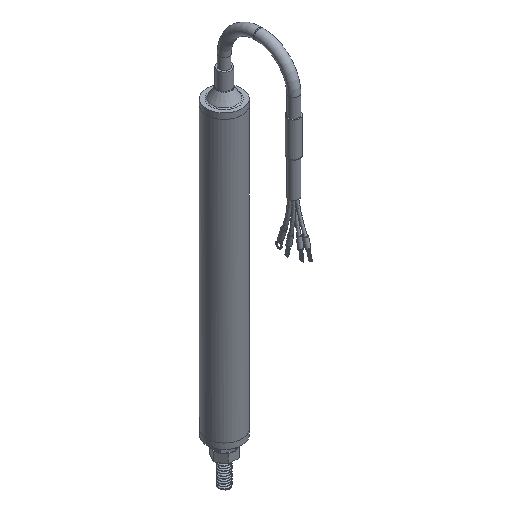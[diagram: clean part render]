
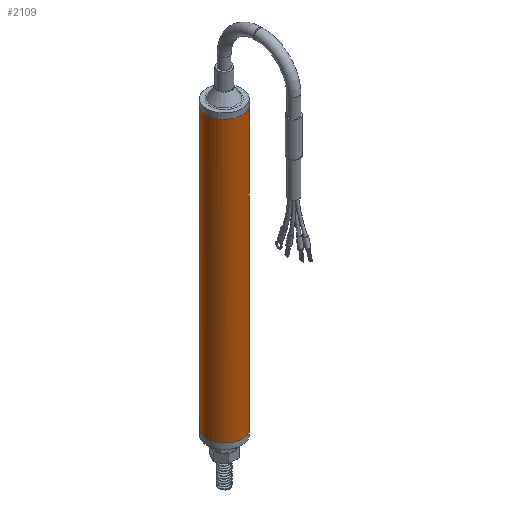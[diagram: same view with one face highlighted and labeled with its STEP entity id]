
A CAD part, isometric view. The second image highlights one B-rep face of the part: STEP entity #2109.
In plain terms, the highlighted cylindrical face has radius 6.35 mm (diameter 12.7 mm), a full revolution.
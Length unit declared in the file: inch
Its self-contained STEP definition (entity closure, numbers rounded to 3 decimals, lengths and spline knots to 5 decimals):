
#98=LINE('',#3315,#245);
#245=VECTOR('',#2715,0.25);
#391=CYLINDRICAL_SURFACE('',#2428,0.25);
#462=FACE_OUTER_BOUND('',#600,.T.);
#600=EDGE_LOOP('',(#1368,#1369,#1370,#1371,#1372,#1373));
#744=CIRCLE('',#2415,0.25);
#745=CIRCLE('',#2416,0.25);
#750=CIRCLE('',#2425,0.25);
#751=CIRCLE('',#2426,0.25);
#847=VERTEX_POINT('',#3290);
#848=VERTEX_POINT('',#3292);
#853=VERTEX_POINT('',#3308);
#854=VERTEX_POINT('',#3310);
#1045=EDGE_CURVE('',#848,#847,#744,.T.);
#1046=EDGE_CURVE('',#847,#848,#745,.T.);
#1053=EDGE_CURVE('',#853,#854,#750,.T.);
#1054=EDGE_CURVE('',#854,#853,#751,.T.);
#1055=EDGE_CURVE('',#854,#848,#98,.T.);
#1368=ORIENTED_EDGE('',*,*,#1054,.F.);
#1369=ORIENTED_EDGE('',*,*,#1055,.T.);
#1370=ORIENTED_EDGE('',*,*,#1045,.T.);
#1371=ORIENTED_EDGE('',*,*,#1046,.T.);
#1372=ORIENTED_EDGE('',*,*,#1055,.F.);
#1373=ORIENTED_EDGE('',*,*,#1053,.F.);
#2109=ADVANCED_FACE('',(#462),#391,.T.);
#2415=AXIS2_PLACEMENT_3D('',#3293,#2685,#2686);
#2416=AXIS2_PLACEMENT_3D('',#3294,#2687,#2688);
#2425=AXIS2_PLACEMENT_3D('',#3311,#2707,#2708);
#2426=AXIS2_PLACEMENT_3D('',#3312,#2709,#2710);
#2428=AXIS2_PLACEMENT_3D('',#3314,#2713,#2714);
#2685=DIRECTION('center_axis',(0.,0.,-1.));
#2686=DIRECTION('ref_axis',(-1.,0.,0.));
#2687=DIRECTION('center_axis',(0.,0.,-1.));
#2688=DIRECTION('ref_axis',(-1.,0.,0.));
#2707=DIRECTION('center_axis',(0.,0.,-1.));
#2708=DIRECTION('ref_axis',(-1.,0.,0.));
#2709=DIRECTION('center_axis',(0.,0.,-1.));
#2710=DIRECTION('ref_axis',(-1.,0.,0.));
#2713=DIRECTION('center_axis',(0.,0.,-1.));
#2714=DIRECTION('ref_axis',(-1.,0.,0.));
#2715=DIRECTION('',(0.,0.,1.));
#3290=CARTESIAN_POINT('',(0.,0.25,0.));
#3292=CARTESIAN_POINT('',(0.25,0.,0.));
#3293=CARTESIAN_POINT('Origin',(0.,0.,0.));
#3294=CARTESIAN_POINT('Origin',(0.,0.,0.));
#3308=CARTESIAN_POINT('',(0.16465,0.18812,-3.97638));
#3310=CARTESIAN_POINT('',(0.25,0.,-3.97638));
#3311=CARTESIAN_POINT('Origin',(0.,0.,-3.97638));
#3312=CARTESIAN_POINT('Origin',(0.,0.,-3.97638));
#3314=CARTESIAN_POINT('Origin',(0.,0.,0.));
#3315=CARTESIAN_POINT('',(0.25,0.,0.));
